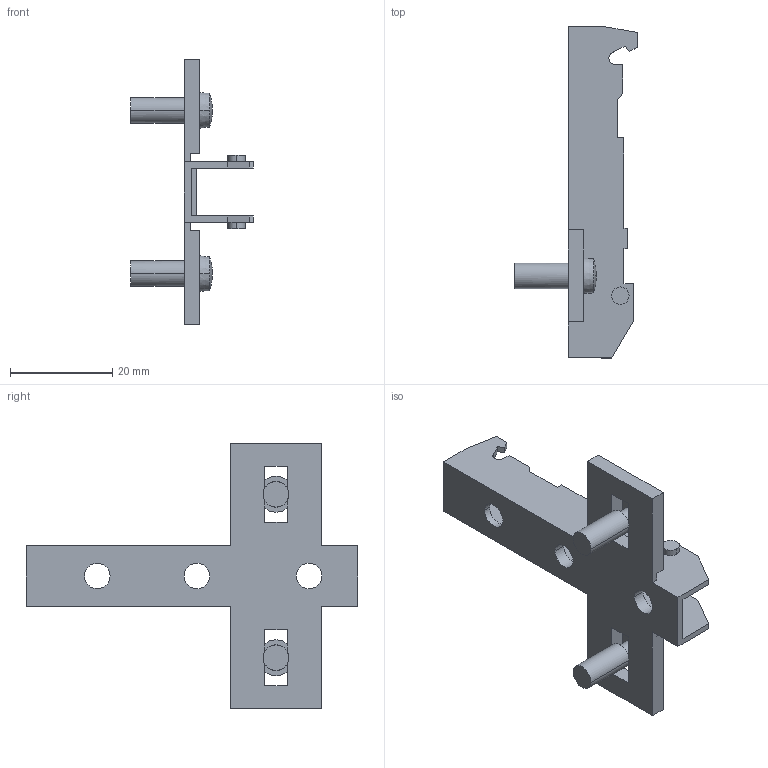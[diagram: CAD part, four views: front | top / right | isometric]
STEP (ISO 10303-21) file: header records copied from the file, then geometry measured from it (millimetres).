
FILE_DESCRIPTION (( 'STEP AP214' ), '1' );
FILE_NAME ('Eco Kreuzmontageplatte LR28_32_Dübel 5mm_lang_H03.step', '2010-11-18T10:07:26', ( 'grass' ), ( '' ), 'SwSTEP 2.0', 'SolidWorks 2010', '' );
FILE_SCHEMA (( 'AUTOMOTIVE_DESIGN' ));
Length unit declared in the file: millimetre
Products named in the file (1): Eco Kreuzmontageplatte LR28_32_Dübel 5mm_lang_H03
Bounding box: 24 x 65 x 52 mm (x, y, z)
Volume: 5160.7 mm3; surface area: 6685.2 mm2
Topology: 1 solids, 1 shells, 104 faces, 310 edges, 202 vertices
Faces by surface type: plane 76, cylinder 20, sphere 4, cone 4
Entity records: 3552 total; most frequent: ORIENTED_EDGE 620, CARTESIAN_POINT 617, DIRECTION 592, EDGE_CURVE 310, VECTOR 238, LINE 238, VERTEX_POINT 202, AXIS2_PLACEMENT_3D 177
